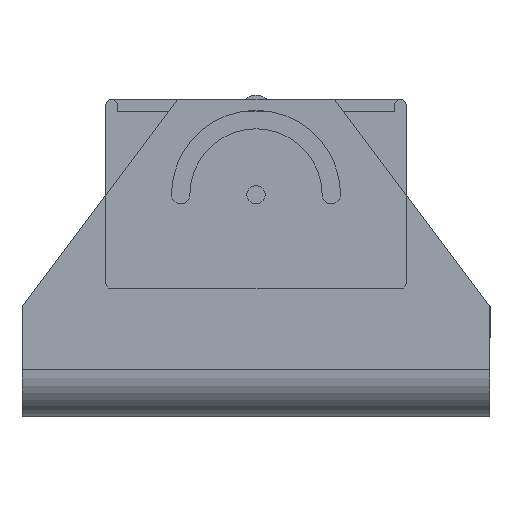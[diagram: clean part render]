
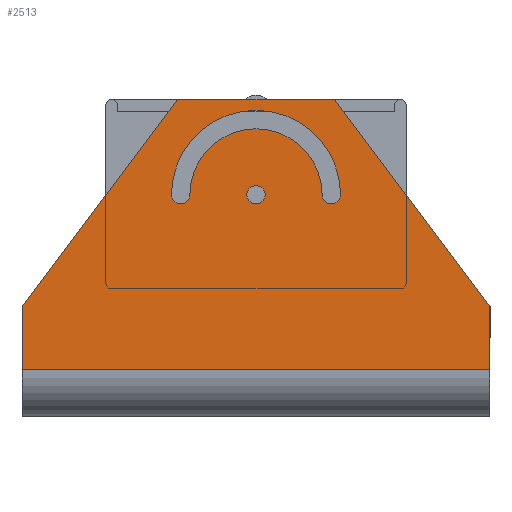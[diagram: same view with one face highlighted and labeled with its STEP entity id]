
A CAD part, left-side view. The second image highlights one B-rep face of the part: STEP entity #2513.
In plain terms, the highlighted planar face has unit normal (-1, 0, 0) as drawn and (0, 0, 1) by its records, which use the part's own axes.
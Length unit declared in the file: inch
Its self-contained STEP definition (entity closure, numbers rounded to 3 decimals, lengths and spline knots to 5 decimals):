
#8 = EDGE_CURVE ( 'NONE', #876, #1058, #1588, .T. ) ;
#24 = EDGE_CURVE ( 'NONE', #483, #3702, #2187, .T. ) ;
#45 = CARTESIAN_POINT ( 'NONE',  ( -0.486, 1.14, 0. ) ) ;
#79 = EDGE_CURVE ( 'NONE', #3475, #398, #3251, .T. ) ;
#125 = AXIS2_PLACEMENT_3D ( 'NONE', #1471, #2701, #2547 ) ;
#181 = CIRCLE ( 'NONE', #860, 0.486 ) ;
#182 = CARTESIAN_POINT ( 'NONE',  ( 1.345, 0., 0. ) ) ;
#194 = DIRECTION ( 'NONE',  ( 0., -1., 0. ) ) ;
#211 = ORIENTED_EDGE ( 'NONE', *, *, #8, .F. ) ;
#225 = CARTESIAN_POINT ( 'NONE',  ( -1.345, 0.5, 0. ) ) ;
#229 = DIRECTION ( 'NONE',  ( 0.601, 0.799, 0. ) ) ;
#246 = CARTESIAN_POINT ( 'NONE',  ( 0.45, 1.69, 0. ) ) ;
#249 = DIRECTION ( 'NONE',  ( 0.601, -0.799, 0. ) ) ;
#270 = FACE_OUTER_BOUND ( 'NONE', #901, .T. ) ;
#277 = FACE_BOUND ( 'NONE', #3219, .T. ) ;
#302 = FACE_BOUND ( 'NONE', #777, .T. ) ;
#344 = CARTESIAN_POINT ( 'NONE',  ( -0.45, 1.69, 0. ) ) ;
#398 = VERTEX_POINT ( 'NONE', #3722 ) ;
#400 = VECTOR ( 'NONE', #229, 39.37008 ) ;
#424 = LINE ( 'NONE', #225, #400 ) ;
#431 = ORIENTED_EDGE ( 'NONE', *, *, #3770, .F. ) ;
#441 = VECTOR ( 'NONE', #194, 39.37008 ) ;
#472 = LINE ( 'NONE', #182, #441 ) ;
#483 = VERTEX_POINT ( 'NONE', #3586 ) ;
#576 = VECTOR ( 'NONE', #980, 39.37008 ) ;
#638 = VECTOR ( 'NONE', #2436, 39.37008 ) ;
#640 = LINE ( 'NONE', #246, #1487 ) ;
#677 = CIRCLE ( 'NONE', #1735, 0.38 ) ;
#688 = ORIENTED_EDGE ( 'NONE', *, *, #2313, .F. ) ;
#696 = CARTESIAN_POINT ( 'NONE',  ( -1.345, 0., 0. ) ) ;
#721 = PLANE ( 'NONE',  #3622 ) ;
#727 = DIRECTION ( 'NONE',  ( 0., 0., -1. ) ) ;
#729 = VERTEX_POINT ( 'NONE', #2841 ) ;
#730 = DIRECTION ( 'NONE',  ( -1., 0., 0. ) ) ;
#777 = EDGE_LOOP ( 'NONE', ( #431, #2020, #2853, #2190 ) ) ;
#859 = ORIENTED_EDGE ( 'NONE', *, *, #1937, .F. ) ;
#860 = AXIS2_PLACEMENT_3D ( 'NONE', #1792, #1797, #1788 ) ;
#867 = AXIS2_PLACEMENT_3D ( 'NONE', #1634, #2341, #3460 ) ;
#876 = VERTEX_POINT ( 'NONE', #2697 ) ;
#901 = EDGE_LOOP ( 'NONE', ( #3636, #688, #859, #2407, #3175, #1743 ) ) ;
#980 = DIRECTION ( 'NONE',  ( 1., 0., 0. ) ) ;
#989 = CARTESIAN_POINT ( 'NONE',  ( -1.345, 1.69, 0. ) ) ;
#1058 = VERTEX_POINT ( 'NONE', #2287 ) ;
#1137 = CIRCLE ( 'NONE', #1463, 0.053 ) ;
#1156 = EDGE_CURVE ( 'NONE', #3370, #483, #1967, .T. ) ;
#1463 = AXIS2_PLACEMENT_3D ( 'NONE', #3373, #2661, #3344 ) ;
#1471 = CARTESIAN_POINT ( 'NONE',  ( 0.433, 1.14, 0. ) ) ;
#1487 = VECTOR ( 'NONE', #249, 39.37008 ) ;
#1532 = EDGE_CURVE ( 'NONE', #1918, #2766, #3710, .T. ) ;
#1543 = CARTESIAN_POINT ( 'NONE',  ( 1.345, 0.5, 0. ) ) ;
#1588 = CIRCLE ( 'NONE', #2047, 0.053 ) ;
#1634 = CARTESIAN_POINT ( 'NONE',  ( -0.433, 1.14, 0. ) ) ;
#1686 = DIRECTION ( 'NONE',  ( -1., 0., 0. ) ) ;
#1735 = AXIS2_PLACEMENT_3D ( 'NONE', #2743, #3421, #3649 ) ;
#1743 = ORIENTED_EDGE ( 'NONE', *, *, #24, .F. ) ;
#1778 = VECTOR ( 'NONE', #1686, 39.37008 ) ;
#1788 = DIRECTION ( 'NONE',  ( 1., 0., 0. ) ) ;
#1792 = CARTESIAN_POINT ( 'NONE',  ( 0., 1.14, 0. ) ) ;
#1797 = DIRECTION ( 'NONE',  ( 0., 0., 1. ) ) ;
#1841 = ORIENTED_EDGE ( 'NONE', *, *, #3149, .F. ) ;
#1918 = VERTEX_POINT ( 'NONE', #344 ) ;
#1937 = EDGE_CURVE ( 'NONE', #2766, #3784, #640, .T. ) ;
#1967 = LINE ( 'NONE', #1996, #1778 ) ;
#1996 = CARTESIAN_POINT ( 'NONE',  ( -1.345, 0.135, 0. ) ) ;
#2020 = ORIENTED_EDGE ( 'NONE', *, *, #2688, .F. ) ;
#2047 = AXIS2_PLACEMENT_3D ( 'NONE', #3165, #2951, #2945 ) ;
#2093 = CARTESIAN_POINT ( 'NONE',  ( 0.38, 1.14, 0. ) ) ;
#2187 = LINE ( 'NONE', #3323, #638 ) ;
#2190 = ORIENTED_EDGE ( 'NONE', *, *, #3449, .F. ) ;
#2263 = VERTEX_POINT ( 'NONE', #45 ) ;
#2287 = CARTESIAN_POINT ( 'NONE',  ( -0.053, 1.14, 0. ) ) ;
#2313 = EDGE_CURVE ( 'NONE', #3784, #3370, #472, .T. ) ;
#2341 = DIRECTION ( 'NONE',  ( 0., 0., 1. ) ) ;
#2357 = EDGE_CURVE ( 'NONE', #3702, #1918, #424, .T. ) ;
#2407 = ORIENTED_EDGE ( 'NONE', *, *, #1532, .F. ) ;
#2436 = DIRECTION ( 'NONE',  ( 0., 1., 0. ) ) ;
#2478 = CIRCLE ( 'NONE', #867, 0.053 ) ;
#2513 = ADVANCED_FACE ( 'NONE', ( #270, #277, #302 ), #721, .F. ) ;
#2547 = DIRECTION ( 'NONE',  ( 1., 0., 0. ) ) ;
#2661 = DIRECTION ( 'NONE',  ( 0., 0., 1. ) ) ;
#2688 = EDGE_CURVE ( 'NONE', #398, #2263, #181, .T. ) ;
#2697 = CARTESIAN_POINT ( 'NONE',  ( 0.053, 1.14, 0. ) ) ;
#2701 = DIRECTION ( 'NONE',  ( 0., 0., 1. ) ) ;
#2743 = CARTESIAN_POINT ( 'NONE',  ( 0., 1.14, 0. ) ) ;
#2766 = VERTEX_POINT ( 'NONE', #3744 ) ;
#2841 = CARTESIAN_POINT ( 'NONE',  ( -0.38, 1.14, 0. ) ) ;
#2853 = ORIENTED_EDGE ( 'NONE', *, *, #79, .F. ) ;
#2860 = CARTESIAN_POINT ( 'NONE',  ( 1.345, 0.135, 0. ) ) ;
#2945 = DIRECTION ( 'NONE',  ( 1., 0., 0. ) ) ;
#2951 = DIRECTION ( 'NONE',  ( 0., 0., 1. ) ) ;
#3149 = EDGE_CURVE ( 'NONE', #1058, #876, #1137, .T. ) ;
#3165 = CARTESIAN_POINT ( 'NONE',  ( 0., 1.14, 0. ) ) ;
#3175 = ORIENTED_EDGE ( 'NONE', *, *, #2357, .F. ) ;
#3219 = EDGE_LOOP ( 'NONE', ( #211, #1841 ) ) ;
#3223 = CARTESIAN_POINT ( 'NONE',  ( -1.345, 0.5, 0. ) ) ;
#3251 = CIRCLE ( 'NONE', #125, 0.053 ) ;
#3323 = CARTESIAN_POINT ( 'NONE',  ( -1.345, 0., 0. ) ) ;
#3344 = DIRECTION ( 'NONE',  ( 1., 0., 0. ) ) ;
#3370 = VERTEX_POINT ( 'NONE', #2860 ) ;
#3373 = CARTESIAN_POINT ( 'NONE',  ( 0., 1.14, 0. ) ) ;
#3421 = DIRECTION ( 'NONE',  ( 0., 0., -1. ) ) ;
#3449 = EDGE_CURVE ( 'NONE', #729, #3475, #677, .T. ) ;
#3460 = DIRECTION ( 'NONE',  ( 1., 0., 0. ) ) ;
#3475 = VERTEX_POINT ( 'NONE', #2093 ) ;
#3586 = CARTESIAN_POINT ( 'NONE',  ( -1.345, 0.135, 0. ) ) ;
#3622 = AXIS2_PLACEMENT_3D ( 'NONE', #696, #727, #730 ) ;
#3636 = ORIENTED_EDGE ( 'NONE', *, *, #1156, .F. ) ;
#3649 = DIRECTION ( 'NONE',  ( 1., 0., 0. ) ) ;
#3702 = VERTEX_POINT ( 'NONE', #3223 ) ;
#3710 = LINE ( 'NONE', #989, #576 ) ;
#3722 = CARTESIAN_POINT ( 'NONE',  ( 0.486, 1.14, 0. ) ) ;
#3744 = CARTESIAN_POINT ( 'NONE',  ( 0.45, 1.69, 0. ) ) ;
#3770 = EDGE_CURVE ( 'NONE', #2263, #729, #2478, .T. ) ;
#3784 = VERTEX_POINT ( 'NONE', #1543 ) ;
